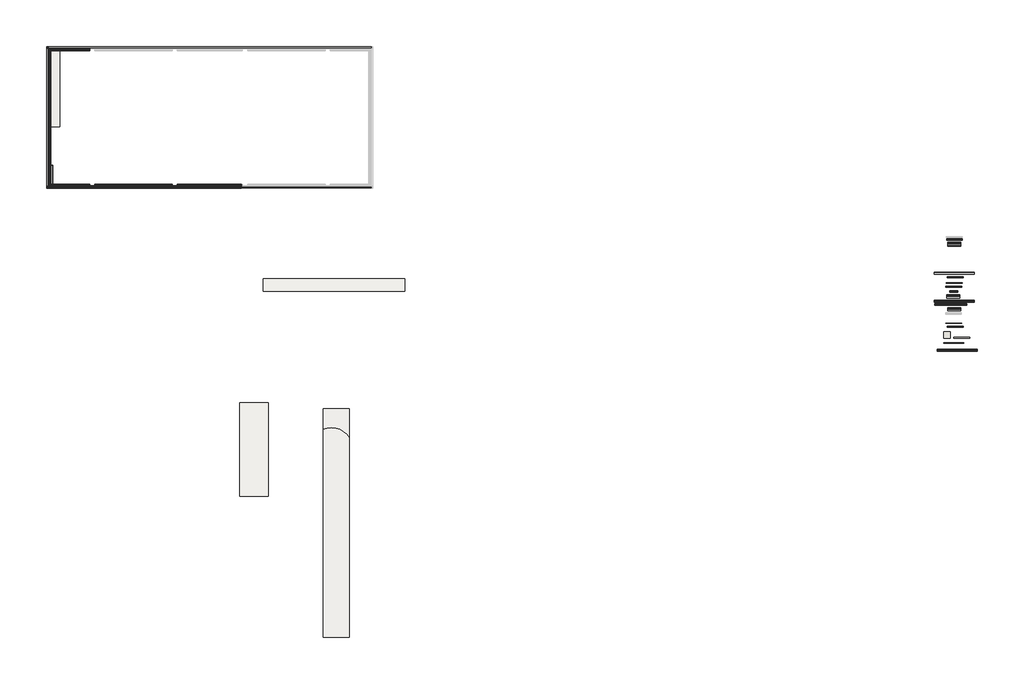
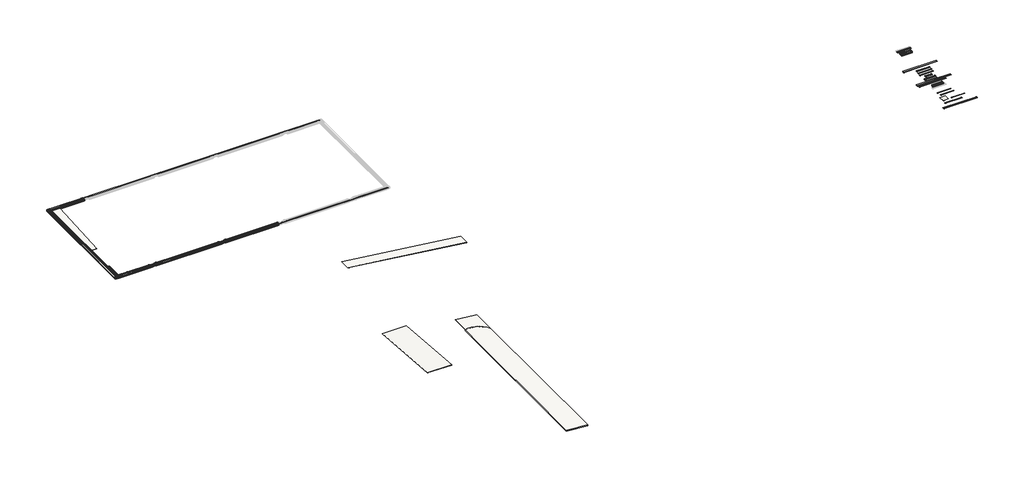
# One storey, part 1 of 2: 54 slabs, 34 proxies, 2 walls.
"""IFC4 building model written with IfcOpenShell, lengths in millimetres."""

from ifc_helpers import new_model, si_unit, frame, origin, place, context, project, spatial, polyline, ellipse_curve, outline, extrude, transform, mapped, element, save
from ifc_brep_helpers import plane_surface, cylinder_surface, revolved_surface, advanced_brep
from components import generic_models_8ecae792, generic_models_b1896c54, generic_models_54147b73, generic_models_b9b95333, generic_models_b8b53aee, generic_models_fe17f52b, generic_models_7034d713, generic_models_974fd3aa, generic_models_bae6f31c, generic_models_4adef035, generic_models_2699ce9c, generic_models_a9fd2c46, generic_models_b56241a0, generic_models_6b5908dc, generic_models_9f248290, bloque_rs_913_6b054df1, bloque_rs_913_14df28d0, bloque_rs_916_4c591605, bloque_rs_917_cf75d2b8, bloque_rs_917_e40e730b, pieza_043_aqua_blanco_anti_slip_ae11da6b, pieza_043_aqua_blanco_anti_slip_a5cfc191, pieza_087_aqua_blanco_anti_slip_ab740b2f, pieza_087_aqua_blanco_anti_slip_4671dbe1, rejilla_245_e2_blanco_63b6c073, rejilla_245_e2_blanco_29759594, slab_11f2cbf8, slab_e566efe1, slab_b1f4c3f1, slab_0e8e06c2, slab_7381d756, slab_8e2b9163, slab_e22d1998, slab_964b0d1d, slab_71ca83d1, slab_8a001f0c, slab_d1715345, slab_a917c221, slab_8c1f2233, bloque_rs_911_a1ea5440, bloque_rs_911_75aae839, bloque_rs_911_83af6cfa, bloque_rs_911_ba672ed2, bloque_rs_911_620b0c99, bloque_rs_912_fb31ae24, pieza_001_aqua_blanco_anti_slip_76647fb7, pieza_001_aqua_blanco_anti_slip_24dbb15d, pieza_001_aqua_blanco_anti_slip_8ac1aa7c, pieza_001_aqua_blanco_anti_slip_6b46d468, pieza_001_aqua_blanco_anti_slip_ebfc354b, pieza_001_aqua_blanco_anti_slip_42895033, pieza_007_aqua_blanco_anti_slip_b171d28c, pieza_007_aqua_blanco_anti_slip_cfc82c42, pieza_007_aqua_blanco_anti_slip_9f0dcfdc, pieza_007_aqua_blanco_anti_slip_306100f5, pieza_007_aqua_blanco_anti_slip_1a35a05d, pieza_007_aqua_blanco_anti_slip_3bc438a8, pieza_007_aqua_blanco_anti_slip_bfcdc353, pieza_007_aqua_blanco_anti_slip_3135474a, pieza_007_aqua_blanco_anti_slip_291b6934, pieza_007_aqua_blanco_anti_slip_fd06c038, pieza_007_aqua_blanco_anti_slip_2c70ffc2, pieza_112_aqua_blanco_liso_a6c1c1e5, pieza_112_aqua_blanco_liso_1accc0e3, rejilla_245_r2_blanco_836b263a, rejilla_245_r2_blanco_af56e1d9, rejilla_245_r2_blanco_6d734e5a, wall_9159aa23, wall_a92842a3

model = new_model("IFC4")

# Units and contexts
model_context = context("Model", 3, world=origin())
ifc_project = project(units=[si_unit("LENGTHUNIT", "METRE", prefix="MILLI")], contexts=[model_context])

# Site, building, storey
site = spatial("IfcSite", under=ifc_project)
building = spatial("IfcBuilding", under=site)
storey = spatial("IfcBuildingStorey", under=building, Name="2_NS9Finlandés", Elevation=-228.3)

# Proxies
placement = place(None, origin())
generic_models_shape = generic_models_8ecae792(model_context)
element("IfcBuildingElementProxy", 1, Name="Muestra 2.01m RS921 : Muestra 2.01m RS921", ObjectType="Muestra 2.01m RS921 : Muestra 2.01m RS921", at=placement, inside=storey, context=model_context, shape_type="MappedRepresentation", body=[
    mapped(generic_models_shape, transform((-19592.9622892, 18777.7075668, 0.0), x_axis=(1.0, 0.0, 0.0), y_axis=(0.0, 1.0, 0.0), z_axis=(0.0, 0.0, 1.0))),
])
generic_models_2_shape = generic_models_b1896c54(model_context)
element("IfcBuildingElementProxy", 2, Name="Muestra 6.32m 647 Anti-Slip : Muestra 6.32m 647 Anti-Slip", ObjectType="Muestra 6.32m 647 Anti-Slip : Muestra 6.32m 647 Anti-Slip", at=placement, inside=storey, context=model_context, shape_type="MappedRepresentation", body=[
    mapped(generic_models_2_shape, transform((-21592.9622892, 18777.7075668, 0.0), x_axis=(1.0, 0.0, 0.0), y_axis=(0.0, 1.0, 0.0), z_axis=(0.0, 0.0, 1.0))),
])
generic_models_3_shape = generic_models_54147b73(model_context)
element("IfcBuildingElementProxy", 3, Name="Muestra 5.01m 245FL : Muestra 5.01m 245FL", ObjectType="Muestra 5.01m 245FL : Muestra 5.01m 245FL", at=placement, inside=storey, context=model_context, shape_type="MappedRepresentation", body=[
    mapped(generic_models_3_shape, transform((-21492.9622892, 18777.7075668, 0.0), x_axis=(1.0, 0.0, 0.0), y_axis=(0.0, 1.0, 0.0), z_axis=(0.0, 0.0, 1.0))),
])
generic_models_4_shape = generic_models_b9b95333(model_context)
element("IfcBuildingElementProxy", 4, Name="Muestra 2.01m RS901 : Muestra 2.01m RS901", ObjectType="Muestra 2.01m RS901 : Muestra 2.01m RS901", at=placement, inside=storey, context=model_context, shape_type="MappedRepresentation", body=[
    mapped(generic_models_4_shape, transform((-25192.9622892, 18777.7075668, 0.0), x_axis=(1.0, 0.0, 0.0), y_axis=(0.0, 1.0, 0.0), z_axis=(0.0, 0.0, 1.0))),
])
generic_models_5_shape = generic_models_b8b53aee(model_context)
element("IfcBuildingElementProxy", 5, Name="Muestra 2.5m 112 Liso : Muestra 2.5m 112 Liso", ObjectType="Muestra 2.5m 112 Liso : Muestra 2.5m 112 Liso", at=placement, inside=storey, context=model_context, shape_type="MappedRepresentation", body=[
    mapped(generic_models_5_shape, transform((-19592.9622892, 18777.7075668, 0.0), x_axis=(1.0, 0.0, 0.0), y_axis=(0.0, 1.0, 0.0), z_axis=(0.0, 0.0, 1.0))),
])
generic_models_6_shape = generic_models_fe17f52b(model_context)
element("IfcBuildingElementProxy", 6, Name="Muestra 2.5m 035 Anti-Slip : Muestra 2.5m 035 Anti-Slip", ObjectType="Muestra 2.5m 035 Anti-Slip : Muestra 2.5m 035 Anti-Slip", at=placement, inside=storey, context=model_context, shape_type="MappedRepresentation", body=[
    mapped(generic_models_6_shape, transform((-25192.9622892, 18777.7075668, 0.0), x_axis=(1.0, 0.0, 0.0), y_axis=(0.0, 1.0, 0.0), z_axis=(0.0, 0.0, 1.0))),
])
generic_models_7_shape = generic_models_7034d713(model_context)
element("IfcBuildingElementProxy", 7, Name="Muestra 1.25m 016 : Muestra 1.25m 016", ObjectType="Muestra 1.25m 016 : Muestra 1.25m 016", at=placement, inside=storey, context=model_context, shape_type="MappedRepresentation", body=[
    mapped(generic_models_7_shape, transform((-27292.9622892, 18777.7075668, 0.0), x_axis=(1.0, 0.0, 0.0), y_axis=(0.0, 1.0, 0.0), z_axis=(0.0, 0.0, 1.0))),
])
generic_models_8_shape = generic_models_974fd3aa(model_context)
element("IfcBuildingElementProxy", 8, Name="Muestra 2.5m 013 Anti-Slip : Muestra 2.5m 013 Anti-Slip", ObjectType="Muestra 2.5m 013 Anti-Slip : Muestra 2.5m 013 Anti-Slip", at=placement, inside=storey, context=model_context, shape_type="MappedRepresentation", body=[
    mapped(generic_models_8_shape, transform((-34492.9622892, 19577.7075668, 0.0), x_axis=(1.0, 0.0, 0.0), y_axis=(0.0, 1.0, 0.0), z_axis=(0.0, 0.0, 1.0))),
])
generic_models_9_shape = generic_models_bae6f31c(model_context)
element("IfcBuildingElementProxy", 9, Name="Muestra 2.5m 007 Tecno : Muestra 2.5m 007 Tecno", ObjectType="Muestra 2.5m 007 Tecno : Muestra 2.5m 007 Tecno", at=placement, inside=storey, context=model_context, shape_type="MappedRepresentation", body=[
    mapped(generic_models_9_shape, transform((-35092.9622892, 18777.7075668, 0.0), x_axis=(1.0, 0.0, 0.0), y_axis=(0.0, 1.0, 0.0), z_axis=(0.0, 0.0, 1.0))),
])
generic_models_10_shape = generic_models_4adef035(model_context)
element("IfcBuildingElementProxy", 10, Name="Muestra 2.5m 106 Liso : Muestra 2.5m 106 Liso", ObjectType="Muestra 2.5m 106 Liso : Muestra 2.5m 106 Liso", at=placement, inside=storey, context=model_context, shape_type="MappedRepresentation", body=[
    mapped(generic_models_10_shape, transform((-33992.9622892, 18777.7075668, 0.0), x_axis=(1.0, 0.0, 0.0), y_axis=(0.0, 1.0, 0.0), z_axis=(0.0, 0.0, 1.0))),
])
generic_models_11_shape = generic_models_2699ce9c(model_context)
element("IfcBuildingElementProxy", 11, Name="Muestra 3.16m 188 : Muestra 3.16m 188", ObjectType="Muestra 3.16m 188 : Muestra 3.16m 188", at=placement, inside=storey, context=model_context, shape_type="MappedRepresentation", body=[
    mapped(generic_models_11_shape, transform((-25176.7446036, 18571.6673946, 0.0), x_axis=(1.0, 0.0, 0.0), y_axis=(0.0, 1.0, 0.0), z_axis=(0.0, 0.0, 1.0))),
])
generic_models_12_shape = generic_models_a9fd2c46(model_context)
element("IfcBuildingElementProxy", 12, Name="Muestra 6.32m L62 : Muestra 6.32m L62", ObjectType="Muestra 6.32m L62 : Muestra 6.32m L62", at=placement, inside=storey, context=model_context, shape_type="MappedRepresentation", body=[
    mapped(generic_models_12_shape, transform((-55928.5634662, 18508.3854142, 0.0), x_axis=(1.0, 0.0, 0.0), y_axis=(0.0, 1.0, 0.0), z_axis=(0.0, 0.0, 1.0))),
])
generic_models_13_shape = generic_models_b56241a0(model_context)
element("IfcBuildingElementProxy", 13, Name="Muestra 2.01m RS911 : Muestra 2.01m RS911", ObjectType="Muestra 2.01m RS911 : Muestra 2.01m RS911", at=placement, inside=storey, context=model_context, shape_type="MappedRepresentation", body=[
    mapped(generic_models_13_shape, transform((19176.3027776, -421.2285857, 0.0), x_axis=(1.0, 0.0, 0.0), y_axis=(0.0, 1.0, 0.0), z_axis=(0.0, 0.0, 1.0))),
])
generic_models_14_shape = generic_models_6b5908dc(model_context)
element("IfcBuildingElementProxy", 14, Name="Muestra 2.5m 001 (2filas) : Muestra 2.5m 001(2filas)", ObjectType="Muestra 2.5m 001 (2filas) : Muestra 2.5m 001(2filas)", at=placement, inside=storey, context=model_context, shape_type="MappedRepresentation", body=[
    mapped(generic_models_14_shape, transform((19176.3027776, -2021.2285857, 0.0), x_axis=(1.0, 0.0, 0.0), y_axis=(0.0, 1.0, 0.0), z_axis=(0.0, 0.0, 1.0))),
])
generic_models_15_shape = generic_models_9f248290(model_context)
element("IfcBuildingElementProxy", 15, Name="Muestra 6.32m 245 CM : Muestra 6.32m 245 CM", ObjectType="Muestra 6.32m 245 CM : Muestra 6.32m 245 CM", at=placement, inside=storey, context=model_context, shape_type="MappedRepresentation", body=[
    mapped(generic_models_15_shape, transform((36122.8948637, -158.3499913, 0.0), x_axis=(1.0, 0.0, 0.0), y_axis=(0.0, 1.0, 0.0), z_axis=(0.0, 0.0, 1.0))),
])
bloque_rs_913_shape = bloque_rs_913_6b054df1(model_context)
element("IfcBuildingElementProxy", 16, Name="ROSA GRES_RS 913 : Bloque RS 913", ObjectType="ROSA GRES_RS 913 : Bloque RS 913", at=placement, inside=storey, context=model_context, shape_type="MappedRepresentation", body=[
    mapped(bloque_rs_913_shape, transform((-22153.2348833, 50963.404511, -228.3), x_axis=(0.0, 1.0, 0.0), y_axis=(-1.0, 0.0, 0.0), z_axis=(0.0, 0.0, 1.0))),
])
bloque_rs_913_2_shape = bloque_rs_913_14df28d0(model_context)
element("IfcBuildingElementProxy", 17, Name="ROSA GRES_RS 913 : Bloque RS 913", ObjectType="ROSA GRES_RS 913 : Bloque RS 913", at=placement, inside=storey, context=model_context, shape_type="MappedRepresentation", body=[
    mapped(bloque_rs_913_2_shape, transform((-22153.2348833, 29963.3320571, -228.3), x_axis=(0.0, -1.0, 0.0), y_axis=(1.0, 0.0, 0.0), z_axis=(0.0, 0.0, 1.0))),
])
bloque_rs_916_shape = bloque_rs_916_4c591605(model_context)
element("IfcBuildingElementProxy", 18, Name="ROSA GRES_RS 916 : Bloque RS 916", ObjectType="ROSA GRES_RS 916 : Bloque RS 916", at=placement, inside=storey, context=model_context, shape_type="MappedRepresentation", body=[
    mapped(bloque_rs_916_shape, transform((-2237.6653271, 29963.368284, -228.3), x_axis=(1.0, 0.0, 0.0), y_axis=(0.0, 1.0, 0.0), z_axis=(0.0, 0.0, 1.0))),
])
element("IfcBuildingElementProxy", 19, Name="ROSA GRES_RS 916 : Bloque RS 916", ObjectType="ROSA GRES_RS 916 : Bloque RS 916", at=placement, inside=storey, context=model_context, shape_type="MappedRepresentation", body=[
    mapped(bloque_rs_916_shape, transform((-15208.070306, 29963.368284, -228.3), x_axis=(1.0, 0.0, 0.0), y_axis=(0.0, 1.0, 0.0), z_axis=(0.0, 0.0, 1.0))),
])
bloque_rs_917_shape = bloque_rs_917_cf75d2b8(model_context)
element("IfcBuildingElementProxy", 20, Name="ROSA GRES_RS 917 : Bloque RS 917", ObjectType="ROSA GRES_RS 917 : Bloque RS 917", at=placement, inside=storey, context=model_context, shape_type="MappedRepresentation", body=[
    mapped(bloque_rs_917_shape, transform((-16221.070306, 50963.368284, -228.3), x_axis=(1.0, 0.0, 0.0), y_axis=(0.0, 1.0, 0.0), z_axis=(0.0, 0.0, 1.0))),
])
bloque_rs_917_2_shape = bloque_rs_917_e40e730b(model_context)
element("IfcBuildingElementProxy", 21, Name="ROSA GRES_RS 917 : Bloque RS 917", ObjectType="ROSA GRES_RS 917 : Bloque RS 917", at=placement, inside=storey, context=model_context, shape_type="MappedRepresentation", body=[
    mapped(bloque_rs_917_2_shape, transform((-3250.6653271, 29963.368284, -228.3), x_axis=(1.0, 0.0, 0.0), y_axis=(0.0, 1.0, 0.0), z_axis=(0.0, 0.0, 1.0))),
])
element("IfcBuildingElementProxy", 22, Name="ROSA GRES_RS 917 : Bloque RS 917", ObjectType="ROSA GRES_RS 917 : Bloque RS 917", at=placement, inside=storey, context=model_context, shape_type="MappedRepresentation", body=[
    mapped(bloque_rs_917_2_shape, transform((-16221.070306, 29963.368284, -228.3), x_axis=(1.0, 0.0, 0.0), y_axis=(0.0, 1.0, 0.0), z_axis=(0.0, 0.0, 1.0))),
])
pieza_043_aqua_blanco_anti_slip_shape = pieza_043_aqua_blanco_anti_slip_ae11da6b(model_context)
element("IfcBuildingElementProxy", 23, Name="ROSA GRES_043 : Pieza 043_Aqua_Blanco_Anti-Slip", ObjectType="ROSA GRES_043 : Pieza 043_Aqua_Blanco_Anti-Slip", at=placement, inside=storey, context=model_context, shape_type="MappedRepresentation", body=[
    mapped(pieza_043_aqua_blanco_anti_slip_shape, transform((-16017.070306, 50978.6823052, -228.3617685), x_axis=(0.0, 0.9967037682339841, 0.08112705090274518), y_axis=(-1.0, 0.0, 0.0), z_axis=(0.0, -0.08112705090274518, 0.9967037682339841))),
])
pieza_043_aqua_blanco_anti_slip_2_shape = pieza_043_aqua_blanco_anti_slip_a5cfc191(model_context)
element("IfcBuildingElementProxy", 24, Name="ROSA GRES_043 : Pieza 043_Aqua_Blanco_Anti-Slip", ObjectType="ROSA GRES_043 : Pieza 043_Aqua_Blanco_Anti-Slip", at=placement, inside=storey, context=model_context, shape_type="MappedRepresentation", body=[
    mapped(pieza_043_aqua_blanco_anti_slip_2_shape, transform((-2246.6653271, 29948.1044471, -229.5818099), x_axis=(1.0, 0.0, 0.0), y_axis=(0.0, 0.9967037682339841, -0.08112705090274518), z_axis=(0.0, 0.08112705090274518, 0.9967037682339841))),
])
element("IfcBuildingElementProxy", 25, Name="ROSA GRES_043 : Pieza 043_Aqua_Blanco_Anti-Slip", ObjectType="ROSA GRES_043 : Pieza 043_Aqua_Blanco_Anti-Slip", at=placement, inside=storey, context=model_context, shape_type="MappedRepresentation", body=[
    mapped(pieza_043_aqua_blanco_anti_slip_2_shape, transform((-3046.6653271, 29948.0542629, -228.3617685), x_axis=(0.0, -0.9967037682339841, 0.08112705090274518), y_axis=(1.0, 0.0, 0.0), z_axis=(0.0, 0.08112705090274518, 0.9967037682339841))),
])
element("IfcBuildingElementProxy", 26, Name="ROSA GRES_043 : Pieza 043_Aqua_Blanco_Anti-Slip", ObjectType="ROSA GRES_043 : Pieza 043_Aqua_Blanco_Anti-Slip", at=placement, inside=storey, context=model_context, shape_type="MappedRepresentation", body=[
    mapped(pieza_043_aqua_blanco_anti_slip_2_shape, transform((-15217.070306, 29948.1044471, -229.5818099), x_axis=(1.0, 0.0, 0.0), y_axis=(0.0, 0.9967037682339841, -0.08112705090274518), z_axis=(0.0, 0.08112705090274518, 0.9967037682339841))),
])
element("IfcBuildingElementProxy", 27, Name="ROSA GRES_043 : Pieza 043_Aqua_Blanco_Anti-Slip", ObjectType="ROSA GRES_043 : Pieza 043_Aqua_Blanco_Anti-Slip", at=placement, inside=storey, context=model_context, shape_type="MappedRepresentation", body=[
    mapped(pieza_043_aqua_blanco_anti_slip_2_shape, transform((-16017.070306, 29948.0542629, -228.3617685), x_axis=(0.0, -0.9967037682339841, 0.08112705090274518), y_axis=(1.0, 0.0, 0.0), z_axis=(0.0, 0.08112705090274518, 0.9967037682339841))),
])
pieza_087_aqua_blanco_anti_slip_shape = pieza_087_aqua_blanco_anti_slip_ab740b2f(model_context)
element("IfcBuildingElementProxy", 28, Name="ROSA GRES_087 : Pieza 087_Aqua_Blanco_Anti-Slip", ObjectType="ROSA GRES_087 : Pieza 087_Aqua_Blanco_Anti-Slip", at=placement, inside=storey, context=model_context, shape_type="MappedRepresentation", body=[
    mapped(pieza_087_aqua_blanco_anti_slip_shape, transform((-16017.070306, 51222.9449355, -209.5546231), x_axis=(0.0, 0.9967037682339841, 0.08112705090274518), y_axis=(-1.0, 0.0, 0.0), z_axis=(0.0, -0.08112705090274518, 0.9967037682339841))),
])
pieza_087_aqua_blanco_anti_slip_2_shape = pieza_087_aqua_blanco_anti_slip_4671dbe1(model_context)
element("IfcBuildingElementProxy", 29, Name="ROSA GRES_087 : Pieza 087_Aqua_Blanco_Anti-Slip", ObjectType="ROSA GRES_087 : Pieza 087_Aqua_Blanco_Anti-Slip", at=placement, inside=storey, context=model_context, shape_type="MappedRepresentation", body=[
    mapped(pieza_087_aqua_blanco_anti_slip_2_shape, transform((-2246.6653271, 29703.9099543, -209.6037698), x_axis=(1.0, 0.0, 0.0), y_axis=(0.0, 0.9967037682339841, -0.08112705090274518), z_axis=(0.0, 0.08112705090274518, 0.9967037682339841))),
])
element("IfcBuildingElementProxy", 30, Name="ROSA GRES_087 : Pieza 087_Aqua_Blanco_Anti-Slip", ObjectType="ROSA GRES_087 : Pieza 087_Aqua_Blanco_Anti-Slip", at=placement, inside=storey, context=model_context, shape_type="MappedRepresentation", body=[
    mapped(pieza_087_aqua_blanco_anti_slip_2_shape, transform((-3046.6653271, 29703.7916326, -209.5546231), x_axis=(0.0, -0.9967037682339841, 0.08112705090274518), y_axis=(1.0, 0.0, 0.0), z_axis=(0.0, 0.08112705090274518, 0.9967037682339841))),
])
element("IfcBuildingElementProxy", 31, Name="ROSA GRES_087 : Pieza 087_Aqua_Blanco_Anti-Slip", ObjectType="ROSA GRES_087 : Pieza 087_Aqua_Blanco_Anti-Slip", at=placement, inside=storey, context=model_context, shape_type="MappedRepresentation", body=[
    mapped(pieza_087_aqua_blanco_anti_slip_2_shape, transform((-15217.070306, 29703.9099543, -209.6037698), x_axis=(1.0, 0.0, 0.0), y_axis=(0.0, 0.9967037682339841, -0.08112705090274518), z_axis=(0.0, 0.08112705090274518, 0.9967037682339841))),
])
element("IfcBuildingElementProxy", 32, Name="ROSA GRES_087 : Pieza 087_Aqua_Blanco_Anti-Slip", ObjectType="ROSA GRES_087 : Pieza 087_Aqua_Blanco_Anti-Slip", at=placement, inside=storey, context=model_context, shape_type="MappedRepresentation", body=[
    mapped(pieza_087_aqua_blanco_anti_slip_2_shape, transform((-16017.070306, 29703.7916326, -209.5546231), x_axis=(0.0, -0.9967037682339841, 0.08112705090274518), y_axis=(1.0, 0.0, 0.0), z_axis=(0.0, 0.08112705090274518, 0.9967037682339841))),
])
rejilla_245_e2_blanco_shape = rejilla_245_e2_blanco_63b6c073(model_context)
element("IfcBuildingElementProxy", 33, Name="ROSA GRES_245 E2 : Rejilla 245 E2_Blanco", ObjectType="ROSA GRES_245 E2 : Rejilla 245 E2_Blanco", at=placement, inside=storey, context=model_context, shape_type="MappedRepresentation", body=[
    mapped(rejilla_245_e2_blanco_shape, transform((-22522.825763, 29593.7774044, -228.3), x_axis=(-1.0, 0.0, 0.0), y_axis=(0.0, -1.0, 0.0), z_axis=(0.0, 0.0, 1.0))),
])
rejilla_245_e2_blanco_2_shape = rejilla_245_e2_blanco_29759594(model_context)
element("IfcBuildingElementProxy", 34, Name="ROSA GRES_245 E2 : Rejilla 245 E2_Blanco", ObjectType="ROSA GRES_245 E2 : Rejilla 245 E2_Blanco", at=placement, inside=storey, context=model_context, shape_type="MappedRepresentation", body=[
    mapped(rejilla_245_e2_blanco_2_shape, transform((-22522.825763, 51332.9591637, -228.3), x_axis=(-1.0, 0.0, 0.0), y_axis=(0.0, -1.0, 0.0), z_axis=(0.0, 0.0, 1.0))),
])

# Slabs
element("IfcSlab", 35, ObjectType="Pieza 244 G1_Patrón Recto_Aqua_Blanco_Anti-Slip", at=placement, inside=storey, context=model_context, shape_type="SweptSolid", body=[
    extrude(outline(polyline([(50963.368284, -79.0144384), (38963.368284, -759.0144384), (38963.368284, -750.0), (50963.368284, -70.0), (50963.368284, -79.0144384)])), frame((-22153.2348833, 0.0, 0.0), z_axis=(1.0, 0.0, 0.0), x_axis=(0.0, 1.0, 0.0)), (0.0, 0.0, 1.0), 1460.0),
])
element("IfcSlab", 36, ObjectType="Pieza 240 G1_Patrón Recto_Aqua_Indubeige_Pastilla", at=placement, inside=storey, context=model_context, shape_type="AdvancedBrep", body=[
    advanced_brep(
    [(20653.985042, -8516.8655314, -2409.0433773), (20653.985042, -5289.6128004, -2409.0433773), (24277.5470116, -5289.6128004, -2765.2345564), (24723.2177259, -5274.954167, -2809.0433773), (24723.2177259, -9820.0398403, -2809.0433773), (20653.985042, -8516.8655314, -2400.0), (24723.2177259, -9820.0398403, -2800.0), (24723.2177259, -5274.954167, -2800.0), (24277.5470116, -5289.6128004, -2756.1911791), (20653.985042, -5289.6128004, -2400.0)],
    [
        (0, 1),
        (1, 2),
        (2, 3, ellipse_curve(frame((24277.5470116, 1492.6449713, -2765.2345564), z_axis=(0.09782713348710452, 0.0, 0.9952034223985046), x_axis=(-0.9952034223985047, 0.0, 0.09782713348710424)), 6814.94619, 6782.2577717)),
        (3, 4),
        (4, 0, ellipse_curve(frame((21933.9746311, -11524.8157802, -2534.8646009), z_axis=(0.09782713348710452, 0.0, 0.9952034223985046), x_axis=(-0.9952034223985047, 0.0, 0.09782713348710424)), 3284.7213195, 3268.9658988)),
        (5, 6, ellipse_curve(frame((21933.9746311, -11524.8157802, -2525.8212237), z_axis=(-0.09782713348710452, 0.0, -0.9952034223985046), x_axis=(-0.9952034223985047, 0.0, 0.09782713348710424)), 3284.7213195, 3268.9658988)),
        (6, 7),
        (7, 8, ellipse_curve(frame((24277.5470116, 1492.6449713, -2756.1911791), z_axis=(-0.09782713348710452, 0.0, -0.9952034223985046), x_axis=(-0.9952034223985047, 0.0, 0.09782713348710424)), 6814.94619, 6782.2577717)),
        (8, 9),
        (9, 5),
        (0, 5),
        (9, 1),
        (8, 2),
        (7, 3),
        (6, 4),
    ],
    [
        plane_surface(frame((24723.2177259, -7358.9374647, -2809.0433773), z_axis=(-0.09782713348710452, 0.0, -0.9952034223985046), x_axis=(-0.9952034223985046, 0.0, 0.09782713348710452))),
        plane_surface(frame((24723.2177259, -7358.9374647, -2800.0), z_axis=(0.09782713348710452, 0.0, 0.9952034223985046), x_axis=(0.9952034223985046, 0.0, -0.09782713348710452))),
        plane_surface(frame((20653.985042, -8516.8655314, -2409.0433773), z_axis=(-1.0, 0.0, 0.0), x_axis=(0.0, 0.0, 1.0))),
        plane_surface(frame((20653.985042, -5289.6128004, -2409.0433773), z_axis=(0.0, 1.0, 0.0), x_axis=(0.0, 0.0, 1.0))),
        revolved_surface(polyline([(31059.804783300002, 1492.6449713, -2089.5045284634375), (31059.804783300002, 1492.6449713, -3431.921207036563)]), (24277.5470116, 1492.6449713, -228.3), (0.0, 0.0, 1.0)),
        plane_surface(frame((24723.2177259, -5274.954167, -2809.0433773), z_axis=(1.0, 0.0, 0.0), x_axis=(0.0, 0.0, 1.0))),
        revolved_surface(polyline([(25202.940529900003, -11524.8157802, -2204.486352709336), (25202.940529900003, -11524.8157802, -2856.1994718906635)]), (21933.9746311, -11524.8157802, -228.3), (0.0, 0.0, 1.0)),
    ],
    [
        (0, [[1, 2, 3, 4, 5]]),
        (1, [[6, 7, 8, 9, 10]]),
        (2, [[-1, 11, -10, 12]]),
        (3, [[-2, -12, -9, 13]]),
        (4, [[-3, -13, -8, 14]]),
        (5, [[-4, -14, -7, 15]]),
        (6, [[-5, -15, -6, -11]]),
    ],
),
])
element("IfcSlab", 37, ObjectType="GENÉRICO_HIERBA", at=placement, inside=storey, context=model_context, shape_type="AdvancedBrep", body=[
    advanced_brep(
    [(24723.2177259, -41165.6888719, -3032.1133497), (20653.985042, -41165.6888719, -2632.1133497), (20653.985042, -8516.8655314, -2632.1133497), (24723.2177259, -9820.0398403, -3032.1133497), (24723.2177259, -41165.6888719, -2800.0), (24723.2177259, -9820.0398403, -2800.0), (20653.985042, -8516.8655314, -2400.0), (20653.985042, -41165.6888719, -2400.0)],
    [
        (0, 1),
        (1, 2),
        (2, 3, ellipse_curve(frame((21933.9746311, -11524.8157802, -2757.9345733), z_axis=(-0.09782713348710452, 0.0, -0.9952034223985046), x_axis=(0.9952034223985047, 0.0, -0.09782713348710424)), 3284.7213195, 3268.9658988)),
        (3, 0),
        (4, 5),
        (5, 6, ellipse_curve(frame((21933.9746311, -11524.8157802, -2525.8212237), z_axis=(0.09782713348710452, 0.0, 0.9952034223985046), x_axis=(0.9952034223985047, 0.0, -0.09782713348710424)), 3284.7213195, 3268.9658988)),
        (6, 7),
        (7, 4),
        (0, 4),
        (7, 1),
        (6, 2),
        (5, 3),
    ],
    [
        plane_surface(frame((24723.2177259, -21213.1318596, -3032.1133497), z_axis=(-0.09782713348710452, 0.0, -0.9952034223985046), x_axis=(-0.9952034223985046, 0.0, 0.09782713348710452))),
        plane_surface(frame((24723.2177259, -21213.1318596, -2800.0), z_axis=(0.09782713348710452, 0.0, 0.9952034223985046), x_axis=(0.9952034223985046, 0.0, -0.09782713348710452))),
        plane_surface(frame((24723.2177259, -41165.6888719, -3032.1133497), z_axis=(0.0, -1.0, 0.0), x_axis=(0.0, 0.0, 1.0))),
        plane_surface(frame((20653.985042, -41165.6888719, -2632.1133497), z_axis=(-1.0, 0.0, 0.0), x_axis=(0.0, 0.0, 1.0))),
        cylinder_surface(frame((21933.9746311, -11524.8157802, -228.3), z_axis=(0.0, 0.0, -1.0), x_axis=(1.0, 0.0, 0.0)), 3268.9658988),
        plane_surface(frame((24723.2177259, -9820.0398403, -3032.1133497), z_axis=(1.0, 0.0, 0.0), x_axis=(0.0, 0.0, 1.0))),
    ],
    [
        (0, [[1, 2, 3, 4]]),
        (1, [[5, 6, 7, 8]]),
        (2, [[-1, 9, -8, 10]]),
        (3, [[-2, -10, -7, 11]]),
        (4, [[-3, -11, -6, 12]]),
        (5, [[-4, -12, -5, -9]]),
    ],
),
])
element("IfcSlab", 38, ObjectType="GENÉRICO_PLAYA", at=placement, inside=storey, context=model_context, shape_type="SweptSolid", body=[
    extrude(outline(polyline([(-9.0713641, 11267.5679984), (-2809.0713641, 33457.9663779), (-2800.0, 33457.9663779), (0.0, 11267.5679984), (-9.0713641, 11267.5679984)])), frame((0.0, 13130.057171, 0.0), z_axis=(0.0, 1.0, 0.0), x_axis=(0.0, 0.0, 1.0)), (0.0, 0.0, 1.0), 1985.931457),
])
element("IfcSlab", 39, ObjectType="GENÉRICO_PLAYA", at=placement, inside=storey, context=model_context, shape_type="SweptSolid", body=[
    extrude(outline(polyline([(-4376.2220179, -1109.0254432), (-18994.8446129, -9.0254432), (-18994.8446129, 0.0), (-4376.2220179, -1100.0), (-4376.2220179, -1109.0254432)])), frame((7561.063018, 0.0, 0.0), z_axis=(1.0, 0.0, 0.0), x_axis=(0.0, 1.0, 0.0)), (0.0, 0.0, 1.0), 4500.0000025),
])
slab_shape = slab_11f2cbf8(model_context)
element("IfcSlab", 40, ObjectType="ROSA GRES_001 (2 filas) : Piezas 001_Aqua_Blanco_Anti-Slip", at=placement, inside=storey, context=model_context, shape_type="MappedRepresentation", body=[
    mapped(slab_shape, transform((-20123.2082947, 50963.368284, -228.3), x_axis=(1.0, 0.0, 0.0), y_axis=(0.0, 1.0, 0.0), z_axis=(0.0, 0.0, 1.0))),
])
slab_2_shape = slab_e566efe1(model_context)
element("IfcSlab", 41, ObjectType="ROSA GRES_001 (2 filas) : Piezas 001_Aqua_Blanco_Anti-Slip", at=placement, inside=storey, context=model_context, shape_type="MappedRepresentation", body=[
    mapped(slab_2_shape, transform((-20123.2082947, 29963.368284, -228.3), x_axis=(1.0, 0.0, 0.0), y_axis=(0.0, 1.0, 0.0), z_axis=(0.0, 0.0, 1.0))),
])
slab_3_shape = slab_b1f4c3f1(model_context)
element("IfcSlab", 42, ObjectType="ROSA GRES_001 (2 filas) : Piezas 001_Aqua_Blanco_Anti-Slip", at=placement, inside=storey, context=model_context, shape_type="MappedRepresentation", body=[
    mapped(slab_3_shape, transform((-14622.6451116, 29963.368284, -228.3), x_axis=(1.0, 0.0, 0.0), y_axis=(0.0, 1.0, 0.0), z_axis=(0.0, 0.0, 1.0))),
])
slab_4_shape = slab_0e8e06c2(model_context)
element("IfcSlab", 43, ObjectType="ROSA GRES_001 (2 filas) : Piezas 001_Aqua_Blanco_Anti-Slip", at=placement, inside=storey, context=model_context, shape_type="MappedRepresentation", body=[
    mapped(slab_4_shape, transform((-1638.7454799, 29963.368284, -228.3), x_axis=(1.0, 0.0, 0.0), y_axis=(0.0, 1.0, 0.0), z_axis=(0.0, 0.0, 1.0))),
])
slab_5_shape = slab_7381d756(model_context)
element("IfcSlab", 44, ObjectType="ROSA GRES_001 (2 filas) : Piezas 001_Aqua_Blanco_Anti-Slip", at=placement, inside=storey, context=model_context, shape_type="MappedRepresentation", body=[
    mapped(slab_5_shape, transform((-14622.6451116, 29963.368284, -228.3), x_axis=(-1.0, 0.0, 0.0), y_axis=(0.0, -1.0, 0.0), z_axis=(0.0, 0.0, 1.0))),
])
slab_6_shape = slab_8e2b9163(model_context)
element("IfcSlab", 45, ObjectType="ROSA GRES_001 (2 filas) : Piezas 001_Aqua_Blanco_Anti-Slip", at=placement, inside=storey, context=model_context, shape_type="MappedRepresentation", body=[
    mapped(slab_6_shape, transform((-1638.7454799, 29963.368284, -228.3), x_axis=(-1.0, 0.0, 0.0), y_axis=(0.0, -1.0, 0.0), z_axis=(0.0, 0.0, 1.0))),
])
slab_7_shape = slab_e22d1998(model_context)
element("IfcSlab", 46, ObjectType="ROSA GRES_001 (2 filas) : Piezas 001_Aqua_Blanco_Anti-Slip", at=placement, inside=storey, context=model_context, shape_type="MappedRepresentation", body=[
    mapped(slab_7_shape, transform((-20123.2082947, 29963.368284, -228.3), x_axis=(-1.0, 0.0, 0.0), y_axis=(0.0, -1.0, 0.0), z_axis=(0.0, 0.0, 1.0))),
])
slab_8_shape = slab_964b0d1d(model_context)
element("IfcSlab", 47, ObjectType="ROSA GRES_001 (2 filas) : Piezas 001_Aqua_Blanco_Anti-Slip", at=placement, inside=storey, context=model_context, shape_type="MappedRepresentation", body=[
    mapped(slab_8_shape, transform((-20123.2082947, 50963.368284, -228.3), x_axis=(-1.0, 0.0, 0.0), y_axis=(0.0, -1.0, 0.0), z_axis=(0.0, 0.0, 1.0))),
])
slab_9_shape = slab_71ca83d1(model_context)
element("IfcSlab", 48, ObjectType="ROSA GRES_001 (2 filas) : Piezas 001_Aqua_Blanco_Anti-Slip", at=placement, inside=storey, context=model_context, shape_type="MappedRepresentation", body=[
    mapped(slab_9_shape, transform((-22153.2348833, 50493.2248437, -228.3), x_axis=(0.0, -1.0, 0.0), y_axis=(1.0, 0.0, 0.0), z_axis=(0.0, 0.0, 1.0))),
])
slab_10_shape = slab_8a001f0c(model_context)
element("IfcSlab", 49, ObjectType="ROSA GRES_001 (2 filas) : Piezas 001_Aqua_Blanco_Anti-Slip", at=placement, inside=storey, context=model_context, shape_type="MappedRepresentation", body=[
    mapped(slab_10_shape, transform((-22153.2348833, 50493.2248437, -228.3), x_axis=(0.0, 1.0, 0.0), y_axis=(-1.0, 0.0, 0.0), z_axis=(0.0, 0.0, 1.0))),
])
slab_11_shape = slab_d1715345(model_context)
element("IfcSlab", 50, ObjectType="ROSA GRES_138 : Pieza 138_Aqua_Marino_Anti-Slip", at=placement, inside=storey, context=model_context, shape_type="MappedRepresentation", body=[
    mapped(slab_11_shape, transform((-21818.2348833, 32923.3948726, -190.0), x_axis=(-1.0, 0.0, 0.0), y_axis=(0.0, -1.0, 0.0), z_axis=(0.0, 0.0, 1.0))),
])
slab_12_shape = slab_a917c221(model_context)
element("IfcSlab", 51, ObjectType="ROSA GRES_138 : Pieza 138_Aqua_Marino_Anti-Slip", at=placement, inside=storey, context=model_context, shape_type="MappedRepresentation", body=[
    mapped(slab_12_shape, transform((-21818.2348833, 32743.3948726, -190.0), x_axis=(0.0, -1.0, 0.0), y_axis=(0.0, 0.0, -1.0), z_axis=(1.0, 0.0, 0.0))),
])
slab_13_shape = slab_8c1f2233(model_context)
element("IfcSlab", 52, ObjectType="ROSA GRES_138 : Pieza 138_Aqua_Marino_Anti-Slip", at=placement, inside=storey, context=model_context, shape_type="MappedRepresentation", body=[
    mapped(slab_13_shape, transform((-21818.2348833, 32743.3948726, -190.0), x_axis=(0.0, 1.0, 0.0), y_axis=(-1.0, 0.0, 0.0), z_axis=(0.0, 0.0, 1.0))),
])
bloque_rs_911_shape = bloque_rs_911_a1ea5440(model_context)
element("IfcSlab", 53, ObjectType="ROSA GRES_RS 911 : Bloque_RS 911", at=placement, inside=storey, context=model_context, shape_type="MappedRepresentation", body=[
    mapped(bloque_rs_911_shape, transform((-22153.2348833, 50907.6341705, -228.3), x_axis=(0.0, -1.0, 0.0), y_axis=(1.0, 0.0, 0.0), z_axis=(0.0, 0.0, 1.0))),
])
bloque_rs_911_2_shape = bloque_rs_911_75aae839(model_context)
element("IfcSlab", 54, ObjectType="ROSA GRES_RS 911 : Bloque_RS 911", at=placement, inside=storey, context=model_context, shape_type="MappedRepresentation", body=[
    mapped(bloque_rs_911_2_shape, transform((-16221.070306, 50963.368284, -228.3), x_axis=(-1.0, 0.0, 0.0), y_axis=(0.0, -1.0, 0.0), z_axis=(0.0, 0.0, 1.0))),
])
bloque_rs_911_3_shape = bloque_rs_911_83af6cfa(model_context)
element("IfcSlab", 55, ObjectType="ROSA GRES_RS 911 : Bloque_RS 911", at=placement, inside=storey, context=model_context, shape_type="MappedRepresentation", body=[
    mapped(bloque_rs_911_3_shape, transform((-16221.070306, 29963.368284, -228.3), x_axis=(-1.0, 0.0, 0.0), y_axis=(0.0, -1.0, 0.0), z_axis=(0.0, 0.0, 1.0))),
])
bloque_rs_911_4_shape = bloque_rs_911_ba672ed2(model_context)
element("IfcSlab", 56, ObjectType="ROSA GRES_RS 911 : Bloque_RS 911", at=placement, inside=storey, context=model_context, shape_type="MappedRepresentation", body=[
    mapped(bloque_rs_911_4_shape, transform((-15013.070306, 29963.368284, -228.3), x_axis=(1.0, 0.0, 0.0), y_axis=(0.0, 1.0, 0.0), z_axis=(0.0, 0.0, 1.0))),
])
bloque_rs_911_5_shape = bloque_rs_911_620b0c99(model_context)
element("IfcSlab", 57, ObjectType="ROSA GRES_RS 911 : Bloque_RS 911", at=placement, inside=storey, context=model_context, shape_type="MappedRepresentation", body=[
    mapped(bloque_rs_911_5_shape, transform((-2042.6653271, 29963.368284, -228.3), x_axis=(1.0, 0.0, 0.0), y_axis=(0.0, 1.0, 0.0), z_axis=(0.0, 0.0, 1.0))),
])
bloque_rs_912_shape = bloque_rs_912_fb31ae24(model_context)
element("IfcSlab", 58, ObjectType="ROSA GRES_RS 912 : Bloque_RS 912", at=placement, inside=storey, context=model_context, shape_type="MappedRepresentation", body=[
    mapped(bloque_rs_912_shape, transform((-2246.6653271, 29963.368284, -228.3), x_axis=(-1.0, 0.0, 0.0), y_axis=(0.0, -1.0, 0.0), z_axis=(0.0, 0.0, 1.0))),
])
element("IfcSlab", 59, ObjectType="ROSA GRES_RS 912 : Bloque_RS 912", at=placement, inside=storey, context=model_context, shape_type="MappedRepresentation", body=[
    mapped(bloque_rs_912_shape, transform((-15217.070306, 29963.368284, -228.3), x_axis=(-1.0, 0.0, 0.0), y_axis=(0.0, -1.0, 0.0), z_axis=(0.0, 0.0, 1.0))),
])
pieza_001_aqua_blanco_anti_slip_shape = pieza_001_aqua_blanco_anti_slip_76647fb7(model_context)
element("IfcSlab", 60, ObjectType="ROSA GRES_001 (corte) : Pieza 001_Aqua_Blanco_Anti-Slip", at=placement, inside=storey, context=model_context, shape_type="MappedRepresentation", body=[
    mapped(pieza_001_aqua_blanco_anti_slip_shape, transform((-22402.0125911, 51086.6209688, -18.401186), x_axis=(0.0, 1.0, 0.0), y_axis=(-1.0, 0.0, 0.0), z_axis=(0.0, 0.0, 1.0))),
])
element("IfcSlab", 61, ObjectType="ROSA GRES_001 (corte) : Pieza 001_Aqua_Blanco_Anti-Slip", at=placement, inside=storey, context=model_context, shape_type="MappedRepresentation", body=[
    mapped(pieza_001_aqua_blanco_anti_slip_shape, transform((-22276.6738115, 50962.0333965, -28.5604416), x_axis=(0.0, 1.0, 0.0), y_axis=(-1.0, 0.0, 0.0), z_axis=(0.0, 0.0, 1.0))),
])
element("IfcSlab", 62, ObjectType="ROSA GRES_001 (corte) : Pieza 001_Aqua_Blanco_Anti-Slip", at=placement, inside=storey, context=model_context, shape_type="MappedRepresentation", body=[
    mapped(pieza_001_aqua_blanco_anti_slip_shape, transform((-22275.8687336, 29715.5059356, -18.4756919), x_axis=(-1.0, 0.0, 0.0), y_axis=(0.0, -1.0, 0.0), z_axis=(0.0, 0.0, 1.0))),
])
element("IfcSlab", 63, ObjectType="ROSA GRES_001 (corte) : Pieza 001_Aqua_Blanco_Anti-Slip", at=placement, inside=storey, context=model_context, shape_type="MappedRepresentation", body=[
    mapped(pieza_001_aqua_blanco_anti_slip_shape, transform((-22151.2811613, 29840.0581163, -28.6136601), x_axis=(-1.0, 0.0, 0.0), y_axis=(0.0, -1.0, 0.0), z_axis=(0.0, 0.0, 1.0))),
])
pieza_001_aqua_blanco_anti_slip_2_shape = pieza_001_aqua_blanco_anti_slip_24dbb15d(model_context)
element("IfcSlab", 64, ObjectType="ROSA GRES_001 (corte) : Pieza 001_Aqua_Blanco_Anti-Slip", at=placement, inside=storey, context=model_context, shape_type="MappedRepresentation", body=[
    mapped(pieza_001_aqua_blanco_anti_slip_2_shape, transform((-22275.8687336, 51211.2306325, -18.4756919), x_axis=(-1.0, 0.0, 0.0), y_axis=(0.0, -1.0, 0.0), z_axis=(0.0, 0.0, 1.0))),
])
element("IfcSlab", 65, ObjectType="ROSA GRES_001 (corte) : Pieza 001_Aqua_Blanco_Anti-Slip", at=placement, inside=storey, context=model_context, shape_type="MappedRepresentation", body=[
    mapped(pieza_001_aqua_blanco_anti_slip_2_shape, transform((-22151.2811613, 51086.6784518, -28.6136601), x_axis=(-1.0, 0.0, 0.0), y_axis=(0.0, -1.0, 0.0), z_axis=(0.0, 0.0, 1.0))),
])
element("IfcSlab", 66, ObjectType="ROSA GRES_001 (corte) : Pieza 001_Aqua_Blanco_Anti-Slip", at=placement, inside=storey, context=model_context, shape_type="MappedRepresentation", body=[
    mapped(pieza_001_aqua_blanco_anti_slip_2_shape, transform((-22402.0125911, 29840.1155993, -18.401186), x_axis=(0.0, -1.0, 0.0), y_axis=(1.0, 0.0, 0.0), z_axis=(0.0, 0.0, 1.0))),
])
element("IfcSlab", 67, ObjectType="ROSA GRES_001 (corte) : Pieza 001_Aqua_Blanco_Anti-Slip", at=placement, inside=storey, context=model_context, shape_type="MappedRepresentation", body=[
    mapped(pieza_001_aqua_blanco_anti_slip_2_shape, transform((-22276.6738115, 29964.7031716, -28.5604416), x_axis=(0.0, -1.0, 0.0), y_axis=(1.0, 0.0, 0.0), z_axis=(0.0, 0.0, 1.0))),
])
pieza_001_aqua_blanco_anti_slip_3_shape = pieza_001_aqua_blanco_anti_slip_8ac1aa7c(model_context)
element("IfcSlab", 68, ObjectType="ROSA GRES_001 (1 fila) : Pieza 001_Aqua_Blanco_Anti-Slip", at=placement, inside=storey, context=model_context, shape_type="MappedRepresentation", body=[
    mapped(pieza_001_aqua_blanco_anti_slip_3_shape, transform((-22151.2811613, 29834.8871011, -218.1725123), x_axis=(-1.0, 0.0, 0.0), y_axis=(0.0, -1.0, 0.0), z_axis=(0.0, 0.0, 1.0))),
])
pieza_001_aqua_blanco_anti_slip_4_shape = pieza_001_aqua_blanco_anti_slip_6b46d468(model_context)
element("IfcSlab", 69, ObjectType="ROSA GRES_001 (1 fila) : Pieza 001_Aqua_Blanco_Anti-Slip", at=placement, inside=storey, context=model_context, shape_type="MappedRepresentation", body=[
    mapped(pieza_001_aqua_blanco_anti_slip_4_shape, transform((-22282.6314256, 29834.8871011, -218.0980063), x_axis=(0.0, 1.0, 0.0), y_axis=(-1.0, 0.0, 0.0), z_axis=(0.0, 0.0, 1.0))),
])
pieza_001_aqua_blanco_anti_slip_5_shape = pieza_001_aqua_blanco_anti_slip_ebfc354b(model_context)
element("IfcSlab", 70, ObjectType="ROSA GRES_001 (1 fila) : Pieza 001_Aqua_Blanco_Anti-Slip", at=placement, inside=storey, context=model_context, shape_type="MappedRepresentation", body=[
    mapped(pieza_001_aqua_blanco_anti_slip_5_shape, transform((-22151.2811613, 51091.849467, -218.1725123), x_axis=(-1.0, 0.0, 0.0), y_axis=(0.0, -1.0, 0.0), z_axis=(0.0, 0.0, 1.0))),
])
pieza_001_aqua_blanco_anti_slip_6_shape = pieza_001_aqua_blanco_anti_slip_42895033(model_context)
element("IfcSlab", 71, ObjectType="ROSA GRES_001 (1 fila) : Pieza 001_Aqua_Blanco_Anti-Slip", at=placement, inside=storey, context=model_context, shape_type="MappedRepresentation", body=[
    mapped(pieza_001_aqua_blanco_anti_slip_6_shape, transform((-22282.6314256, 51091.849467, -218.0980063), x_axis=(0.0, -1.0, 0.0), y_axis=(1.0, 0.0, 0.0), z_axis=(0.0, 0.0, 1.0))),
])
pieza_007_aqua_blanco_anti_slip_shape = pieza_007_aqua_blanco_anti_slip_b171d28c(model_context)
element("IfcSlab", 72, ObjectType="ROSA GRES_007 (ref. RS912) : Pieza 007_Aqua_Blanco_Anti-Slip", at=placement, inside=storey, context=model_context, shape_type="MappedRepresentation", body=[
    mapped(pieza_007_aqua_blanco_anti_slip_shape, transform((-2921.9553614, 29963.368284, -228.3), x_axis=(1.0, 0.0, 0.0), y_axis=(0.0, 1.0, 0.0), z_axis=(0.0, 0.0, 1.0))),
])
element("IfcSlab", 73, ObjectType="ROSA GRES_007 (ref. RS912) : Pieza 007_Aqua_Blanco_Anti-Slip", at=placement, inside=storey, context=model_context, shape_type="MappedRepresentation", body=[
    mapped(pieza_007_aqua_blanco_anti_slip_shape, transform((-15892.3603404, 29963.368284, -228.3), x_axis=(1.0, 0.0, 0.0), y_axis=(0.0, 1.0, 0.0), z_axis=(0.0, 0.0, 1.0))),
])
pieza_007_aqua_blanco_anti_slip_2_shape = pieza_007_aqua_blanco_anti_slip_cfc82c42(model_context)
element("IfcSlab", 74, ObjectType="ROSA GRES_007 : Pieza 007_Aqua_Blanco_Anti-Slip", at=placement, inside=storey, context=model_context, shape_type="MappedRepresentation", body=[
    mapped(pieza_007_aqua_blanco_anti_slip_2_shape, transform((-20123.2082947, 29963.368284, -228.3), x_axis=(1.0, 0.0, 0.0), y_axis=(0.0, 1.0, 0.0), z_axis=(0.0, 0.0, 1.0))),
])
pieza_007_aqua_blanco_anti_slip_3_shape = pieza_007_aqua_blanco_anti_slip_9f0dcfdc(model_context)
element("IfcSlab", 75, ObjectType="ROSA GRES_007 : Pieza 007_Aqua_Blanco_Anti-Slip", at=placement, inside=storey, context=model_context, shape_type="MappedRepresentation", body=[
    mapped(pieza_007_aqua_blanco_anti_slip_3_shape, transform((-14622.6451116, 29963.368284, -228.3), x_axis=(1.0, 0.0, 0.0), y_axis=(0.0, 1.0, 0.0), z_axis=(0.0, 0.0, 1.0))),
])
pieza_007_aqua_blanco_anti_slip_4_shape = pieza_007_aqua_blanco_anti_slip_306100f5(model_context)
element("IfcSlab", 76, ObjectType="ROSA GRES_007 : Pieza 007_Aqua_Blanco_Anti-Slip", at=placement, inside=storey, context=model_context, shape_type="MappedRepresentation", body=[
    mapped(pieza_007_aqua_blanco_anti_slip_4_shape, transform((-1638.7454799, 29963.368284, -228.3), x_axis=(1.0, 0.0, 0.0), y_axis=(0.0, 1.0, 0.0), z_axis=(0.0, 0.0, 1.0))),
])
pieza_007_aqua_blanco_anti_slip_5_shape = pieza_007_aqua_blanco_anti_slip_1a35a05d(model_context)
element("IfcSlab", 77, ObjectType="ROSA GRES_007 : Pieza 007_Aqua_Blanco_Anti-Slip", at=placement, inside=storey, context=model_context, shape_type="MappedRepresentation", body=[
    mapped(pieza_007_aqua_blanco_anti_slip_5_shape, transform((-20123.2082947, 50963.368284, -228.3), x_axis=(1.0, 0.0, 0.0), y_axis=(0.0, 1.0, 0.0), z_axis=(0.0, 0.0, 1.0))),
])
pieza_007_aqua_blanco_anti_slip_6_shape = pieza_007_aqua_blanco_anti_slip_3bc438a8(model_context)
element("IfcSlab", 78, ObjectType="ROSA GRES_007 : Pieza 007_Aqua_Blanco_Anti-Slip", at=placement, inside=storey, context=model_context, shape_type="MappedRepresentation", body=[
    mapped(pieza_007_aqua_blanco_anti_slip_6_shape, transform((-22153.2348833, 50493.2248437, -228.3), x_axis=(0.0, -1.0, 0.0), y_axis=(1.0, 0.0, 0.0), z_axis=(0.0, 0.0, 1.0))),
])
pieza_007_aqua_blanco_anti_slip_7_shape = pieza_007_aqua_blanco_anti_slip_bfcdc353(model_context)
element("IfcSlab", 79, ObjectType="ROSA GRES_007 : Pieza 007_Aqua_Blanco_Anti-Slip", at=placement, inside=storey, context=model_context, shape_type="MappedRepresentation", body=[
    mapped(pieza_007_aqua_blanco_anti_slip_7_shape, transform((-22153.2348833, 50493.2248437, -228.3), x_axis=(0.0, 1.0, 0.0), y_axis=(-1.0, 0.0, 0.0), z_axis=(0.0, 0.0, 1.0))),
])
pieza_007_aqua_blanco_anti_slip_8_shape = pieza_007_aqua_blanco_anti_slip_3135474a(model_context)
element("IfcSlab", 80, ObjectType="ROSA GRES_007 : Pieza 007_Aqua_Blanco_Anti-Slip", at=placement, inside=storey, context=model_context, shape_type="MappedRepresentation", body=[
    mapped(pieza_007_aqua_blanco_anti_slip_8_shape, transform((-20123.2082947, 50963.368284, -228.3), x_axis=(-1.0, 0.0, 0.0), y_axis=(0.0, -1.0, 0.0), z_axis=(0.0, 0.0, 1.0))),
])
pieza_007_aqua_blanco_anti_slip_9_shape = pieza_007_aqua_blanco_anti_slip_291b6934(model_context)
element("IfcSlab", 81, ObjectType="ROSA GRES_007 : Pieza 007_Aqua_Blanco_Anti-Slip", at=placement, inside=storey, context=model_context, shape_type="MappedRepresentation", body=[
    mapped(pieza_007_aqua_blanco_anti_slip_9_shape, transform((-1638.7454799, 29963.368284, -228.3), x_axis=(-1.0, 0.0, 0.0), y_axis=(0.0, -1.0, 0.0), z_axis=(0.0, 0.0, 1.0))),
])
pieza_007_aqua_blanco_anti_slip_10_shape = pieza_007_aqua_blanco_anti_slip_fd06c038(model_context)
element("IfcSlab", 82, ObjectType="ROSA GRES_007 : Pieza 007_Aqua_Blanco_Anti-Slip", at=placement, inside=storey, context=model_context, shape_type="MappedRepresentation", body=[
    mapped(pieza_007_aqua_blanco_anti_slip_10_shape, transform((-14622.6451116, 29963.368284, -228.3), x_axis=(-1.0, 0.0, 0.0), y_axis=(0.0, -1.0, 0.0), z_axis=(0.0, 0.0, 1.0))),
])
pieza_007_aqua_blanco_anti_slip_11_shape = pieza_007_aqua_blanco_anti_slip_2c70ffc2(model_context)
element("IfcSlab", 83, ObjectType="ROSA GRES_007 : Pieza 007_Aqua_Blanco_Anti-Slip", at=placement, inside=storey, context=model_context, shape_type="MappedRepresentation", body=[
    mapped(pieza_007_aqua_blanco_anti_slip_11_shape, transform((-20123.2082947, 29963.368284, -228.3), x_axis=(-1.0, 0.0, 0.0), y_axis=(0.0, -1.0, 0.0), z_axis=(0.0, 0.0, 1.0))),
])
pieza_112_aqua_blanco_liso_shape = pieza_112_aqua_blanco_liso_a6c1c1e5(model_context)
element("IfcSlab", 84, ObjectType="ROSA GRES_112 : Pieza 112_Aqua_Blanco_Liso", at=placement, inside=storey, context=model_context, shape_type="MappedRepresentation", body=[
    mapped(pieza_112_aqua_blanco_liso_shape, transform((-22153.2614718, 32743.2248437, -160.0), x_axis=(0.0, -1.0, 0.0), y_axis=(1.0, 0.0, 0.0), z_axis=(0.0, 0.0, 1.0))),
])
pieza_112_aqua_blanco_liso_2_shape = pieza_112_aqua_blanco_liso_1accc0e3(model_context)
element("IfcSlab", 85, ObjectType="ROSA GRES_112 : Pieza 112_Aqua_Blanco_Liso", at=placement, inside=storey, context=model_context, shape_type="MappedRepresentation", body=[
    mapped(pieza_112_aqua_blanco_liso_2_shape, transform((-22153.2348833, 32923.3948726, -160.0), x_axis=(0.0, -1.0, 0.0), y_axis=(1.0, 0.0, 0.0), z_axis=(0.0, 0.0, 1.0))),
])
rejilla_245_r2_blanco_shape = rejilla_245_r2_blanco_836b263a(model_context)
element("IfcSlab", 86, ObjectType="ROSA GRES_245 R2_Blanco : Rejilla 245 R2_Blanco", at=placement, inside=storey, context=model_context, shape_type="MappedRepresentation", body=[
    mapped(rejilla_245_r2_blanco_shape, transform((-22472.825763, 29963.368284, -228.3), x_axis=(1.0, 0.0, 0.0), y_axis=(0.0, 1.0, 0.0), z_axis=(0.0, 0.0, 1.0))),
])
rejilla_245_r2_blanco_2_shape = rejilla_245_r2_blanco_af56e1d9(model_context)
element("IfcSlab", 87, ObjectType="ROSA GRES_245 R2_Blanco : Rejilla 245 R2_Blanco", at=placement, inside=storey, context=model_context, shape_type="MappedRepresentation", body=[
    mapped(rejilla_245_r2_blanco_2_shape, transform((-22472.825763, 50963.368284, -228.3), x_axis=(1.0, 0.0, 0.0), y_axis=(0.0, 1.0, 0.0), z_axis=(0.0, 0.0, 1.0))),
])
rejilla_245_r2_blanco_3_shape = rejilla_245_r2_blanco_6d734e5a(model_context)
element("IfcSlab", 88, ObjectType="ROSA GRES_245 R2_Blanco : Rejilla 245 R2_Blanco", at=placement, inside=storey, context=model_context, shape_type="MappedRepresentation", body=[
    mapped(rejilla_245_r2_blanco_3_shape, transform((-22153.2348833, 51282.9591637, -228.3), x_axis=(0.0, -1.0, 0.0), y_axis=(1.0, 0.0, 0.0), z_axis=(0.0, 0.0, 1.0))),
])

# Walls
wall_shape = wall_9159aa23(model_context)
element("IfcWall", 89, ObjectType="Muestra 1m2_320 Liso : Muestra 1m2_320 Liso", at=placement, inside=storey, context=model_context, shape_type="MappedRepresentation", body=[
    mapped(wall_shape, transform((70000.0, 0.0, 0.0), x_axis=(1.0, 0.0, 0.0), y_axis=(0.0, 1.0, 0.0), z_axis=(0.0, 0.0, 1.0))),
])
wall_2_shape = wall_a92842a3(model_context)
element("IfcWall", 90, ObjectType="Muestra_10Piezas_122 G1 Liso : Muestra_10Piezas_122G Liso", at=placement, inside=storey, context=model_context, shape_type="MappedRepresentation", body=[
    mapped(wall_2_shape, transform((70000.0, 0.0, 0.0), x_axis=(1.0, 0.0, 0.0), y_axis=(0.0, 1.0, 0.0), z_axis=(0.0, 0.0, 1.0))),
])

save(model, "model.ifc")
